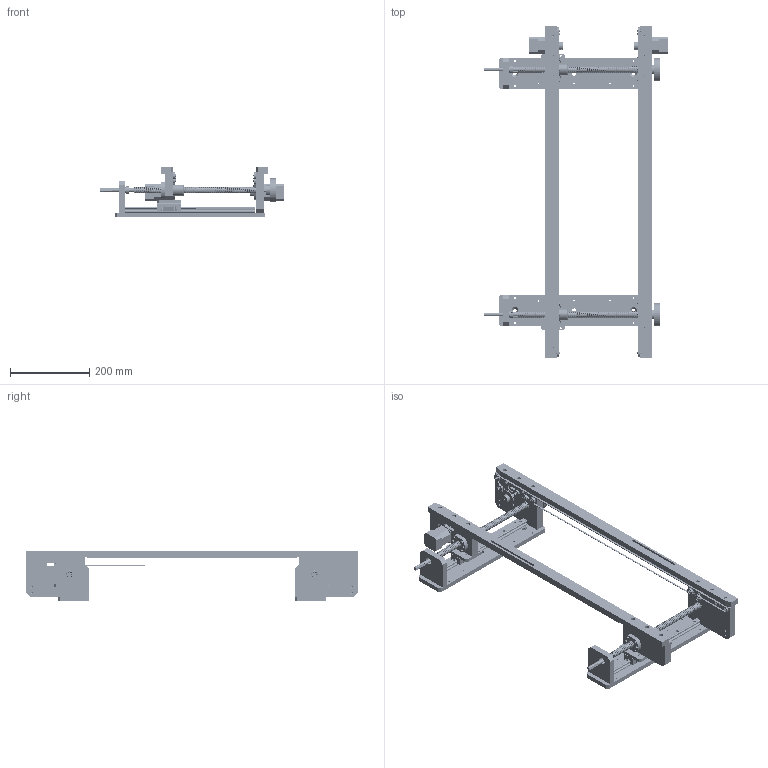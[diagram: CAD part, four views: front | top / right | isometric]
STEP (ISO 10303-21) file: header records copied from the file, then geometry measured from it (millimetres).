
FILE_DESCRIPTION(/* description */ (''),/* implementation_level */ '2;1');
FILE_NAME(/* name */ 'beltconveyor_a034_w200_l800.stp',/* time_stamp */ '2024-12-18T22:45:39+08:00',/* author */ (''),/* organization */ (''),/* preprocessor_version */ 'ST-DEVELOPER v16.7',/* originating_system */ 'SIEMENS PLM Software NX 12.0',/* authorisation */ '');
FILE_SCHEMA (('AUTOMOTIVE_DESIGN { 1 0 10303 214 3 1 1 1 }'));
Products named in the file (26): 滑块连接板; 后轨道（左）; SHF1605螺母; HGW15CC滑块; 后轨道（右）; 604轴承; hexagon socket button head screws gb_GB_SOCKET_TYPE7 M4X10-N; 602-08-0005; 皮带托板; 602-03-0014; 15导轨; 摇手柄; 1605滚珠丝杆; 皮带托条; 前轨道（右）; 前轨道（左）; 步进电机CT2H420068-011; 皮带; 丝杆后固定板; miniature radial ball bearings gb_Rolling bearings FF61800  GB 7218-1
995; 调宽底座; 皮带传动轮; 轨道; 604轴承组件; 后轨道组件; beltconveyor_a034_w200_l800
Assembly tree (60 placements, depth 4):
  beltconveyor_a034_w200_l800
    604轴承组件  x8
      602-08-0005
      hexagon socket button head screws gb_GB_SOCKET_TYPE7 M4X10-N
      604轴承
    轨道
    皮带传动轮  x2
    调宽底座  x2
    miniature radial ball bearings gb_Rolling bearings FF61800  GB 7218-1
995  x4
    丝杆后固定板  x2
    皮带
    步进电机CT2H420068-011
    前轨道（左）
    前轨道（右）
    皮带托条  x2
    1605滚珠丝杆  x2
    摇手柄  x2
    15导轨  x2
    602-03-0014  x2
    皮带托板
    后轨道组件
      轨道
      604轴承组件  x8
        602-08-0005
        hexagon socket button head screws gb_GB_SOCKET_TYPE7 M4X10-N
        604轴承
      后轨道（右）
      HGW15CC滑块  x2
      皮带
      SHF1605螺母  x2
      皮带托条  x2
      后轨道（左）
      滑块连接板  x2
      皮带托板
      步进电机CT2H420068-011
Bounding box: 466 x 840 x 129 mm (x, y, z)
Volume: 3418423.4 mm3; surface area: 884543.8 mm2
Topology: 160 solids, 160 shells, 5163 faces, 14126 edges, 9144 vertices
Faces by surface type: plane 1945, cylinder 1558, extrusion 738, torus 348, cone 266, sphere 184, bspline 124
Entity records: 88232 total; most frequent: CARTESIAN_POINT 32733, ORIENTED_EDGE 11908, DIRECTION 9523, EDGE_CURVE 5954, VERTEX_POINT 3924, AXIS2_PLACEMENT_3D 3214, VECTOR 3095, LINE 2726
